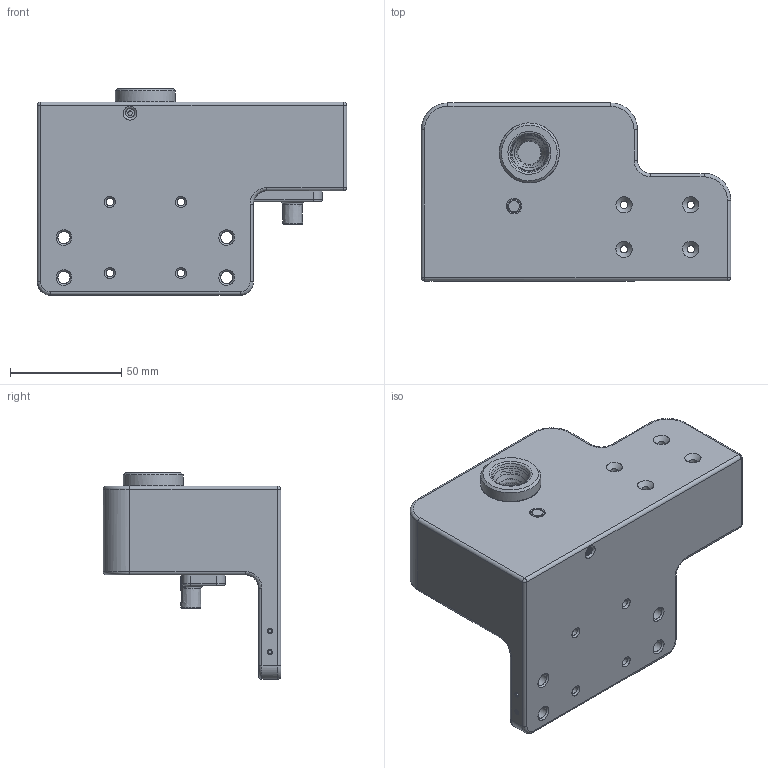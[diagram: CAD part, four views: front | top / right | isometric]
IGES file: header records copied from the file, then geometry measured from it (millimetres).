
Global section: file name: dropper v44; native system: unknown; preprocessor: unknown; author: unknown; organization: unknown; date: 20210917.095250; units: millimetre
Bounding box: 139.25 x 80 x 93 mm (x, y, z)
Volume: 298613.5 mm3; surface area: 88289.9 mm2
Topology: 12 solids, 12 shells, 464 faces, 1082 edges, 635 vertices
Faces by surface type: bspline 464
